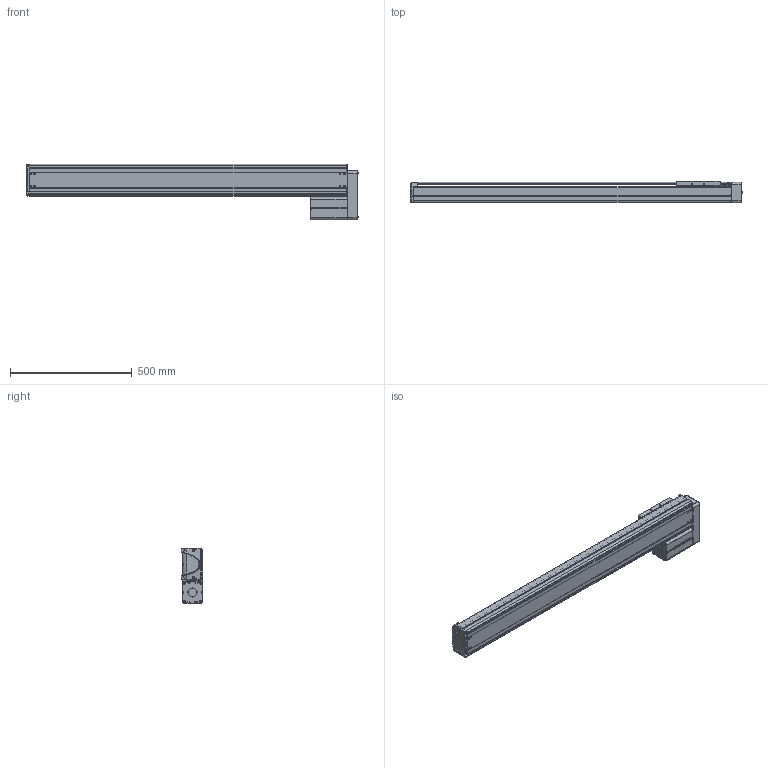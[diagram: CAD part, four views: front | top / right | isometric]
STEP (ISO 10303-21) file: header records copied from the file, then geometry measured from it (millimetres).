
FILE_DESCRIPTION((''),'2;1');
FILE_NAME('BE30E-UL-L_N-A5_IGS_PRT','2017-06-17T',(' '),(''),'PRO/ENGINEER BY PARAMETRIC TECHNOLOGY CORPORATION, 2015030','PRO/ENGINEER BY PARAMETRIC TECHNOLOGY CORPORATION, 2015030','');
FILE_SCHEMA(('CONFIG_CONTROL_DESIGN'));
Length unit declared in the file: millimetre
Products named in the file (1): BE30E-UL-L_N-A5_IGS_PRT
Bounding box: 1361.9 x 89.8 x 227 mm (x, y, z)
Volume: 4466302 mm3; surface area: 1866825.1 mm2
Topology: 2 solids, 137 shells, 2105 faces, 5698 edges, 3710 vertices
Faces by surface type: plane 1008, cylinder 907, cone 101, torus 37, bspline 28, sphere 24
Entity records: 68484 total; most frequent: CARTESIAN_POINT 14575, DIRECTION 11397, ORIENTED_EDGE 10805, EDGE_CURVE 5660, AXIS2_PLACEMENT_3D 4044, VERTEX_POINT 3710, VECTOR 3309, LINE 3309
